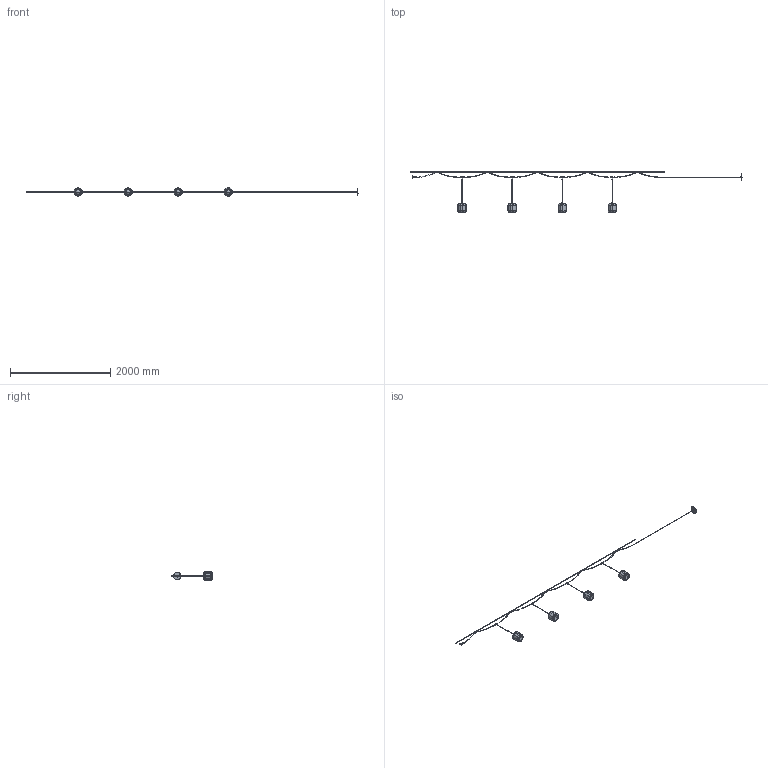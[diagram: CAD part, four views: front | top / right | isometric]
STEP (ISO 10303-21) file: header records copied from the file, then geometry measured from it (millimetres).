
FILE_DESCRIPTION (( 'STEP AP203' ), '1' );
FILE_NAME ('30920201xxxU.STEP', '2021-07-08T08:13:50', ( '' ), ( '' ), 'SwSTEP 2.0', 'SolidWorks 2019', '' );
FILE_SCHEMA (( 'CONFIG_CONTROL_DESIGN' ));
Length unit declared in the file: millimetre
Products named in the file (34): 000-309-106; Pieza1; 000-309-510 M; 000-914-172; 000-914-052; 000-335-080; 000-357-046; 000-335-076; 914-052; D913-34A2; 000-309-505; 30920201xxxU; 000-920-060 PRENSA; 000-920-060; 000-SUB309-500; 000-906-024 NANS MINI; 335-083; 000-920-060 BASE; 000-309-029; 000-914-096; 000-335-078; 000-309-503; 000-914-104; 000-335-081; 000-906-024-CABLE-HORIZONTAL; 000-TIRAFONDO630; 000-920-061 NANS MINI ; 000-SUB335-03; 000-335-079; 000-D965-310-A2
Assembly tree (78 placements, depth 3):
  30920201xxxU
    000-920-061 NANS MINI 
    000-335-076  x5
    D913-34A2  x5
    000-914-096  x5
    000-906-024-CABLE-HORIZONTAL
    000-SUB335-03
      000-335-081
      000-335-080  x2
      000-335-079
      000-335-078
      000-357-046  x2
      000-914-172  x2
      000-914-052
    000-TIRAFONDO630  x2
    000-SUB309-500
      000-309-510 M
      000-309-505
      000-309-503
      000-D965-310-A2  x2
      000-309-106
      000-309-029
      000-906-024 NANS MINI
      000-914-104
    000-SUB309-500
      000-309-510 M
      000-309-505
      000-309-503
      000-D965-310-A2  x2
      000-309-106
      000-309-029
      000-906-024 NANS MINI
      000-914-104
    000-SUB309-500
      000-309-510 M
      000-309-505
      000-309-503
      000-D965-310-A2  x2
      000-309-106
      000-309-029
      000-906-024 NANS MINI
      000-914-104
    000-SUB309-500
      000-309-510 M
      000-309-505
      000-309-503
      000-D965-310-A2  x2
      000-309-106
      000-309-029
      000-906-024 NANS MINI
      000-914-104
    000-920-060
      000-920-060 BASE
    000-920-060
      000-920-060 BASE
      000-920-060 PRENSA
    Pieza1
    335-083
    914-052
Bounding box: 6630.76 x 808.15 x 167 mm (x, y, z)
Volume: 1448581.5 mm3; surface area: 1549289 mm2
Topology: 69 solids, 83 shells, 3860 faces, 10343 edges, 6509 vertices
Faces by surface type: plane 1086, cylinder 884, cone 829, torus 619, bspline 424, sphere 18
Entity records: 56030 total; most frequent: CARTESIAN_POINT 19482, ORIENTED_EDGE 6758, DIRECTION 6695, EDGE_CURVE 3391, AXIS2_PLACEMENT_3D 2807, VERTEX_POINT 2158, CIRCLE 1538, EDGE_LOOP 1449
